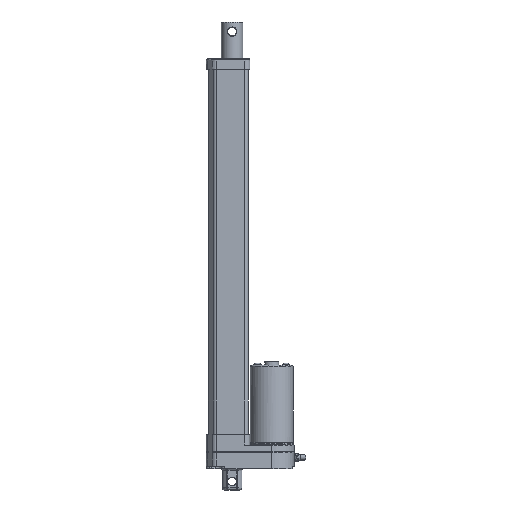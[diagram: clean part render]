
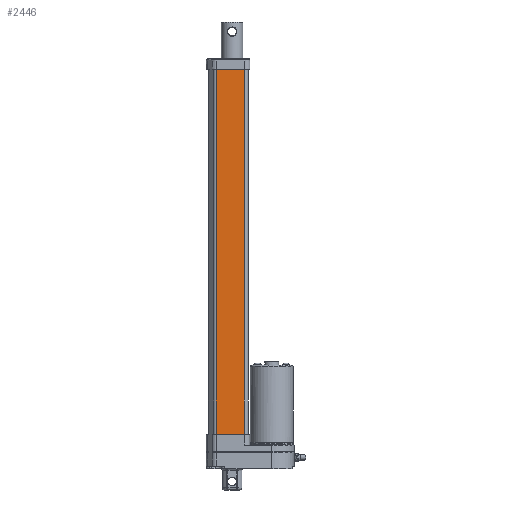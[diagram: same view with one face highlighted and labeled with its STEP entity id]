
A CAD part, left-side view. The second image highlights one B-rep face of the part: STEP entity #2446.
In plain terms, the highlighted planar face has unit normal (-1, 0, 0).
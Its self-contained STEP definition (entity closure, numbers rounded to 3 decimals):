
#244 = CARTESIAN_POINT ( 'NONE',  ( -19.5, 25.5, 0. ) ) ;
#1236 = DIRECTION ( 'NONE',  ( 0., 0., -1. ) ) ;
#1354 = CARTESIAN_POINT ( 'NONE',  ( -19.5, 51.73, 353. ) ) ;
#2181 = LINE ( 'NONE', #244, #9071 ) ;
#2446 = ADVANCED_FACE ( 'NONE', ( #4417 ), #8025, .T. ) ;
#2599 = EDGE_CURVE ( 'NONE', #7296, #2777, #2181, .T. ) ;
#2639 = ORIENTED_EDGE ( 'NONE', *, *, #6076, .F. ) ;
#2777 = VERTEX_POINT ( 'NONE', #10288 ) ;
#2886 = AXIS2_PLACEMENT_3D ( 'NONE', #8217, #11985, #12047 ) ;
#3035 = EDGE_LOOP ( 'NONE', ( #10360, #10253, #2639, #7735 ) ) ;
#3325 = LINE ( 'NONE', #4289, #11122 ) ;
#4033 = DIRECTION ( 'NONE',  ( 0., -1., 0. ) ) ;
#4289 = CARTESIAN_POINT ( 'NONE',  ( -19.5, 56., 353. ) ) ;
#4389 = EDGE_CURVE ( 'NONE', #5534, #5413, #8246, .T. ) ;
#4417 = FACE_OUTER_BOUND ( 'NONE', #3035, .T. ) ;
#4547 = VECTOR ( 'NONE', #8192, 1000. ) ;
#5381 = VECTOR ( 'NONE', #11576, 1000. ) ;
#5413 = VERTEX_POINT ( 'NONE', #9988 ) ;
#5462 = CARTESIAN_POINT ( 'NONE',  ( -19.5, 25.5, 353. ) ) ;
#5534 = VERTEX_POINT ( 'NONE', #1354 ) ;
#6076 = EDGE_CURVE ( 'NONE', #5534, #7296, #3325, .T. ) ;
#6370 = CARTESIAN_POINT ( 'NONE',  ( -19.5, 51.73, 0. ) ) ;
#6916 = CARTESIAN_POINT ( 'NONE',  ( -19.5, 56., 0. ) ) ;
#7296 = VERTEX_POINT ( 'NONE', #5462 ) ;
#7735 = ORIENTED_EDGE ( 'NONE', *, *, #4389, .T. ) ;
#8025 = PLANE ( 'NONE',  #2886 ) ;
#8107 = EDGE_CURVE ( 'NONE', #5413, #2777, #8660, .T. ) ;
#8192 = DIRECTION ( 'NONE',  ( 0., 0., -1. ) ) ;
#8217 = CARTESIAN_POINT ( 'NONE',  ( -19.5, 51.73, 0. ) ) ;
#8246 = LINE ( 'NONE', #6370, #4547 ) ;
#8660 = LINE ( 'NONE', #6916, #5381 ) ;
#9071 = VECTOR ( 'NONE', #1236, 1000. ) ;
#9988 = CARTESIAN_POINT ( 'NONE',  ( -19.5, 51.73, 0. ) ) ;
#10253 = ORIENTED_EDGE ( 'NONE', *, *, #2599, .F. ) ;
#10288 = CARTESIAN_POINT ( 'NONE',  ( -19.5, 25.5, 0. ) ) ;
#10360 = ORIENTED_EDGE ( 'NONE', *, *, #8107, .T. ) ;
#11122 = VECTOR ( 'NONE', #4033, 1000. ) ;
#11576 = DIRECTION ( 'NONE',  ( 0., -1., 0. ) ) ;
#11985 = DIRECTION ( 'NONE',  ( -1., 0., 0. ) ) ;
#12047 = DIRECTION ( 'NONE',  ( 0., 0., 1. ) ) ;
